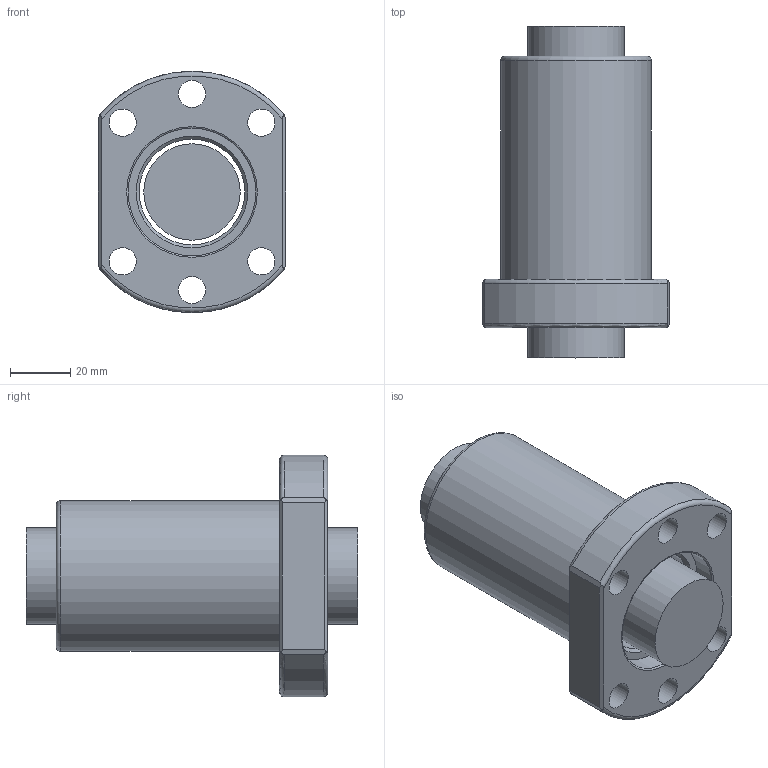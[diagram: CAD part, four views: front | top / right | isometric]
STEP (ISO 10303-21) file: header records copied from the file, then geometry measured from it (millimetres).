
FILE_DESCRIPTION(/* description */ (''),/* implementation_level */ '2;1');
FILE_NAME(/* name */ '3210.prt.step',/* time_stamp */ '2008-12-05T16:32:08+08:00',/* author */ (''),/* organization */ (''),/* preprocessor_version */ 'ST-DEVELOPER v11',/* originating_system */ 'SIEMENS UGS NX 6.0',/* authorisation */ '');
FILE_SCHEMA (('AUTOMOTIVE_DESIGN { 1 0 10303 214 1 1 1 1 }'));
Length unit declared in the file: millimetre
Products named in the file (1): 3210
Bounding box: 62 x 110 x 80 mm (x, y, z)
Volume: 204340.6 mm3; surface area: 46626.8 mm2
Topology: 2 solids, 2 shells, 39 faces, 100 edges, 68 vertices
Faces by surface type: plane 17, cylinder 13, torus 7, cone 2
Full cylindrical faces by diameter (mm): 9 x6, 31.95 x1, 35 x1, 42.3 x2, 50 x1
Entity records: 1306 total; most frequent: CARTESIAN_POINT 414, DIRECTION 174, ORIENTED_EDGE 150, EDGE_CURVE 75, AXIS2_PLACEMENT_3D 75, EDGE_LOOP 72, VERTEX_POINT 59, FACE_BOUND 54
